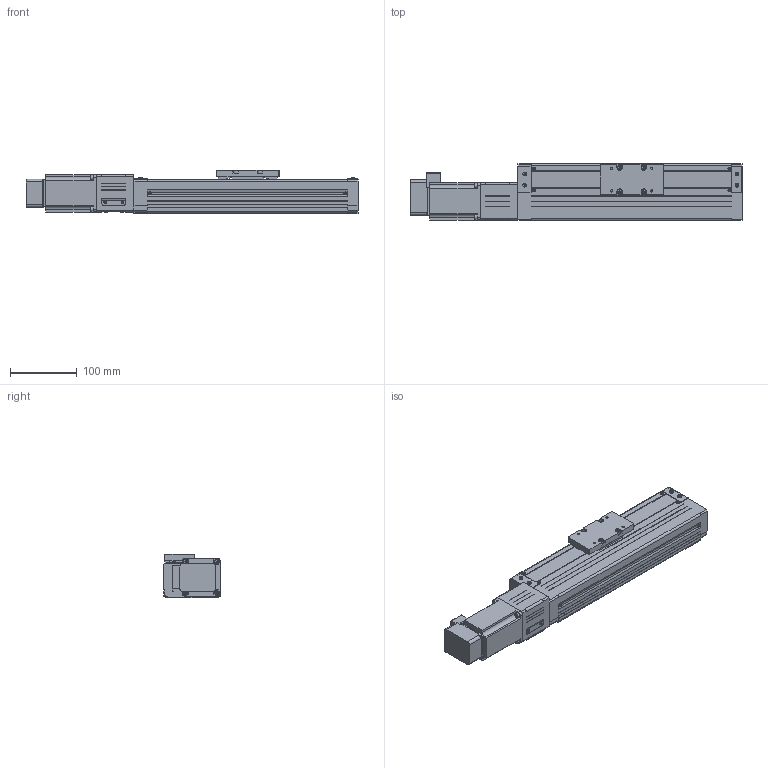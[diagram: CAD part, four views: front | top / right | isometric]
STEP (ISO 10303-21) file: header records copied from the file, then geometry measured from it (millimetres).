
FILE_DESCRIPTION((''),'2;1');
FILE_NAME('D:\製品 (図面)\カタログ用3D\SU部品\SU85×65\ダウンロード用\SU85×65-CM30\SU85×65-200-CM30.stp','2011-07-02T13:29:20',('Tsuchiya'),(''),'Autodesk Inventor 10','Autodesk Inventor 10','');
FILE_SCHEMA(('AUTOMOTIVE_DESIGN { 1 0 10303 214 1 1 1 1 }'));
Length unit declared in the file: millimetre
Products named in the file (4): SU85×65-200-CM30; SU85×65-200-CM301; SU85×65-200-CM302; SU85×65-200-CM303
Assembly tree (3 placements, depth 2):
  SU85×65-200-CM30
    SU85×65-200-CM301
    SU85×65-200-CM302
    SU85×65-200-CM303
Bounding box: 496.5 x 85 x 65 mm (x, y, z)
Volume: 1086182.4 mm3; surface area: 287975.5 mm2
Topology: 9 solids, 9 shells, 966 faces, 2546 edges, 1646 vertices
Faces by surface type: plane 798, cylinder 128, cone 24, torus 12, bspline 4
Full cylindrical faces by diameter (mm): 3.242 x8, 4 x4, 4.134 x8, 4.5 x4, 5.5 x4, 6 x1, 6.35 x1, 7 x8, 8 x1, 11.5 x1, 12 x1, 13 x1, 38.1 x2, 43 x1
Entity records: 29447 total; most frequent: CARTESIAN_POINT 5878, ORIENTED_EDGE 4854, DIRECTION 4640, EDGE_CURVE 2427, VECTOR 1924, LINE 1924, VERTEX_POINT 1612, AXIS2_PLACEMENT_3D 1358
